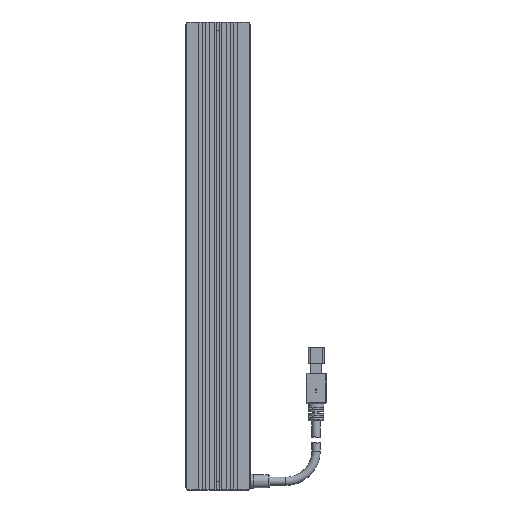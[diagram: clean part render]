
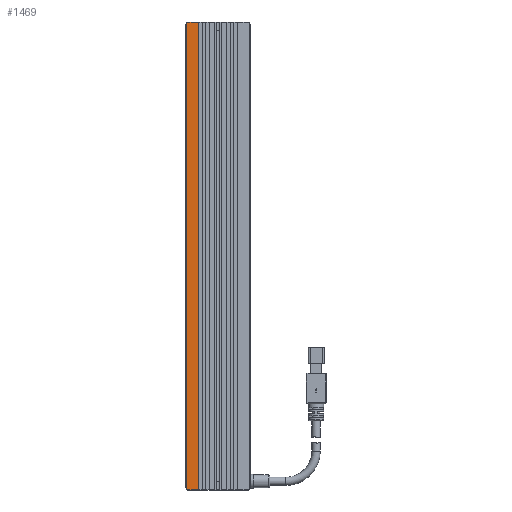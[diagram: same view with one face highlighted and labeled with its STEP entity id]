
A CAD part, top view. The second image highlights one B-rep face of the part: STEP entity #1469.
In plain terms, the highlighted planar face has unit normal (0, 0, 1).
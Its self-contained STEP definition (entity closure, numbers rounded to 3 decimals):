
#89 = EDGE_LOOP ( 'NONE', ( #451, #5566, #1781, #14740, #11013, #18318 ) ) ;
#198 = VERTEX_POINT ( 'NONE', #13367 ) ;
#451 = ORIENTED_EDGE ( 'NONE', *, *, #8676, .F. ) ;
#1076 = CARTESIAN_POINT ( 'NONE',  ( -9.7, 116., 12.5 ) ) ;
#1454 = DIRECTION ( 'NONE',  ( 0., 0., -1. ) ) ;
#1469 = ADVANCED_FACE ( 'NONE', ( #4972 ), #11651, .F. ) ;
#1781 = ORIENTED_EDGE ( 'NONE', *, *, #15744, .T. ) ;
#2935 = DIRECTION ( 'NONE',  ( 0.707, -0.707, 0. ) ) ;
#3003 = LINE ( 'NONE', #16422, #3478 ) ;
#3046 = CARTESIAN_POINT ( 'NONE',  ( -15.5, -115.5, 12.5 ) ) ;
#3453 = DIRECTION ( 'NONE',  ( 0., -1., 0. ) ) ;
#3478 = VECTOR ( 'NONE', #10664, 1000. ) ;
#3794 = EDGE_CURVE ( 'NONE', #8091, #13346, #12676, .T. ) ;
#4265 = CARTESIAN_POINT ( 'NONE',  ( -15.5, 116., 12.5 ) ) ;
#4464 = EDGE_CURVE ( 'NONE', #16111, #13346, #15097, .T. ) ;
#4602 = CARTESIAN_POINT ( 'NONE',  ( -15., -116., 12.5 ) ) ;
#4896 = VECTOR ( 'NONE', #3453, 1000. ) ;
#4972 = FACE_OUTER_BOUND ( 'NONE', #89, .T. ) ;
#5566 = ORIENTED_EDGE ( 'NONE', *, *, #7405, .T. ) ;
#5934 = LINE ( 'NONE', #16681, #17106 ) ;
#6476 = CARTESIAN_POINT ( 'NONE',  ( -9.7, 116., 12.5 ) ) ;
#6521 = CARTESIAN_POINT ( 'NONE',  ( -9.7, -116., 12.5 ) ) ;
#6660 = AXIS2_PLACEMENT_3D ( 'NONE', #9987, #1454, #12851 ) ;
#7405 = EDGE_CURVE ( 'NONE', #16064, #198, #5934, .T. ) ;
#7435 = CARTESIAN_POINT ( 'NONE',  ( -15., 116., 12.5 ) ) ;
#7534 = DIRECTION ( 'NONE',  ( 1., 0., 0. ) ) ;
#7787 = VECTOR ( 'NONE', #2935, 1000. ) ;
#8091 = VERTEX_POINT ( 'NONE', #1076 ) ;
#8676 = EDGE_CURVE ( 'NONE', #16064, #8091, #3003, .T. ) ;
#9968 = CARTESIAN_POINT ( 'NONE',  ( -16., -115., 12.5 ) ) ;
#9987 = CARTESIAN_POINT ( 'NONE',  ( -15.5, 116., 12.5 ) ) ;
#10282 = CARTESIAN_POINT ( 'NONE',  ( -15.5, -116., 12.5 ) ) ;
#10664 = DIRECTION ( 'NONE',  ( 1., 0., 0. ) ) ;
#10952 = EDGE_CURVE ( 'NONE', #13037, #16111, #15807, .T. ) ;
#11013 = ORIENTED_EDGE ( 'NONE', *, *, #4464, .T. ) ;
#11651 = PLANE ( 'NONE',  #6660 ) ;
#12676 = LINE ( 'NONE', #6476, #4896 ) ;
#12683 = LINE ( 'NONE', #4265, #17144 ) ;
#12771 = DIRECTION ( 'NONE',  ( 0., -1., 0. ) ) ;
#12851 = DIRECTION ( 'NONE',  ( -1., 0., 0. ) ) ;
#13037 = VERTEX_POINT ( 'NONE', #3046 ) ;
#13346 = VERTEX_POINT ( 'NONE', #6521 ) ;
#13367 = CARTESIAN_POINT ( 'NONE',  ( -15.5, 115.5, 12.5 ) ) ;
#14740 = ORIENTED_EDGE ( 'NONE', *, *, #10952, .T. ) ;
#15097 = LINE ( 'NONE', #10282, #15534 ) ;
#15353 = DIRECTION ( 'NONE',  ( -0.707, -0.707, 0. ) ) ;
#15534 = VECTOR ( 'NONE', #7534, 1000. ) ;
#15744 = EDGE_CURVE ( 'NONE', #198, #13037, #12683, .T. ) ;
#15807 = LINE ( 'NONE', #9968, #7787 ) ;
#16064 = VERTEX_POINT ( 'NONE', #7435 ) ;
#16111 = VERTEX_POINT ( 'NONE', #4602 ) ;
#16422 = CARTESIAN_POINT ( 'NONE',  ( -15.5, 116., 12.5 ) ) ;
#16681 = CARTESIAN_POINT ( 'NONE',  ( -15., 116., 12.5 ) ) ;
#17106 = VECTOR ( 'NONE', #15353, 1000. ) ;
#17144 = VECTOR ( 'NONE', #12771, 1000. ) ;
#18318 = ORIENTED_EDGE ( 'NONE', *, *, #3794, .F. ) ;
